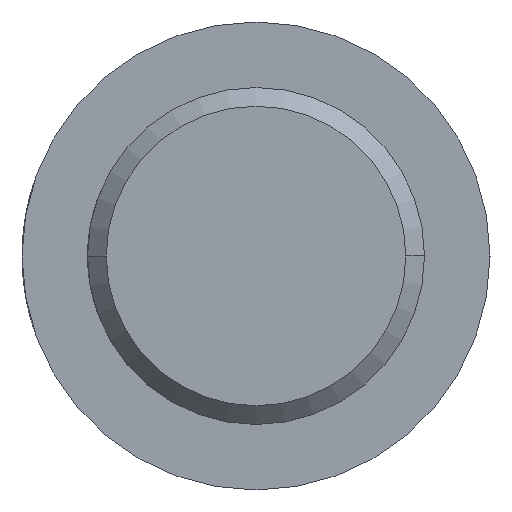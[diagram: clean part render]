
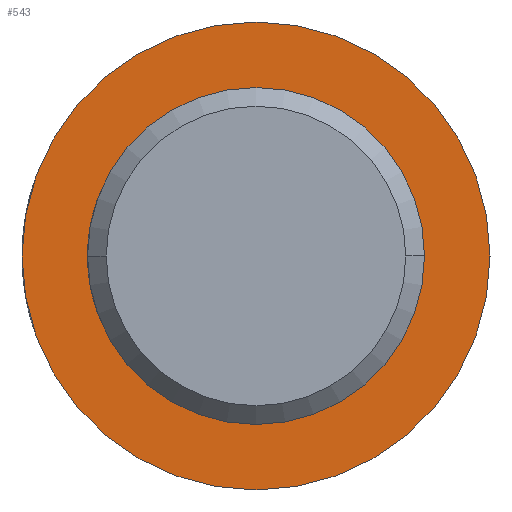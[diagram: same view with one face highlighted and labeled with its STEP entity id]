
A CAD part, left-side view. The second image highlights one B-rep face of the part: STEP entity #543.
In plain terms, the highlighted planar face has unit normal (-1, 0, 0).
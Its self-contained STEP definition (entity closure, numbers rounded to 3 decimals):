
#55 = CARTESIAN_POINT ( 'NONE',  ( -25.25, 9., 0. ) ) ;
#59 = CARTESIAN_POINT ( 'NONE',  ( -25.25, 12.5, 0. ) ) ;
#60 = CARTESIAN_POINT ( 'NONE',  ( -25.25, -9., 0. ) ) ;
#61 = CARTESIAN_POINT ( 'NONE',  ( -25.25, -12.5, 0. ) ) ;
#137 = EDGE_CURVE ( 'NONE', #1380, #1388, #1187, .T. ) ;
#138 = EDGE_CURVE ( 'NONE', #1386, #1389, #1182, .T. ) ;
#160 = EDGE_LOOP ( 'NONE', ( #746, #747 ) ) ;
#388 = CARTESIAN_POINT ( 'NONE',  ( -25.25, 12.5, 0. ) ) ;
#389 = PLANE ( 'NONE',  #1125 ) ;
#394 = DIRECTION ( 'NONE',  ( 1., 0., 0. ) ) ;
#395 = DIRECTION ( 'NONE',  ( 0., 1., 0. ) ) ;
#506 = EDGE_LOOP ( 'NONE', ( #744, #745 ) ) ;
#543 = ADVANCED_FACE ( 'NONE', ( #907, #912 ), #389, .F. ) ;
#744 = ORIENTED_EDGE ( 'NONE', *, *, #848, .F. ) ;
#745 = ORIENTED_EDGE ( 'NONE', *, *, #137, .F. ) ;
#746 = ORIENTED_EDGE ( 'NONE', *, *, #849, .T. ) ;
#747 = ORIENTED_EDGE ( 'NONE', *, *, #138, .T. ) ;
#777 = CARTESIAN_POINT ( 'NONE',  ( -25.25, 0., 0. ) ) ;
#778 = DIRECTION ( 'NONE',  ( -1., 0., 0. ) ) ;
#779 = DIRECTION ( 'NONE',  ( 0., -1., 0. ) ) ;
#780 = CARTESIAN_POINT ( 'NONE',  ( -25.25, 0., 0. ) ) ;
#781 = DIRECTION ( 'NONE',  ( -1., 0., 0. ) ) ;
#782 = DIRECTION ( 'NONE',  ( 0., -1., 0. ) ) ;
#848 = EDGE_CURVE ( 'NONE', #1388, #1380, #940, .T. ) ;
#849 = EDGE_CURVE ( 'NONE', #1389, #1386, #942, .T. ) ;
#870 = AXIS2_PLACEMENT_3D ( 'NONE', #1407, #1408, #1409 ) ;
#871 = AXIS2_PLACEMENT_3D ( 'NONE', #1410, #1411, #1325 ) ;
#907 = FACE_BOUND ( 'NONE', #506, .T. ) ;
#912 = FACE_OUTER_BOUND ( 'NONE', #160, .T. ) ;
#940 = CIRCLE ( 'NONE', #1139, 9. ) ;
#942 = CIRCLE ( 'NONE', #1140, 12.5 ) ;
#1125 = AXIS2_PLACEMENT_3D ( 'NONE', #388, #394, #395 ) ;
#1139 = AXIS2_PLACEMENT_3D ( 'NONE', #777, #778, #779 ) ;
#1140 = AXIS2_PLACEMENT_3D ( 'NONE', #780, #781, #782 ) ;
#1182 = CIRCLE ( 'NONE', #871, 12.5 ) ;
#1187 = CIRCLE ( 'NONE', #870, 9. ) ;
#1325 = DIRECTION ( 'NONE',  ( 0., -1., 0. ) ) ;
#1380 = VERTEX_POINT ( 'NONE', #55 ) ;
#1386 = VERTEX_POINT ( 'NONE', #59 ) ;
#1388 = VERTEX_POINT ( 'NONE', #60 ) ;
#1389 = VERTEX_POINT ( 'NONE', #61 ) ;
#1407 = CARTESIAN_POINT ( 'NONE',  ( -25.25, 0., 0. ) ) ;
#1408 = DIRECTION ( 'NONE',  ( -1., 0., 0. ) ) ;
#1409 = DIRECTION ( 'NONE',  ( 0., -1., 0. ) ) ;
#1410 = CARTESIAN_POINT ( 'NONE',  ( -25.25, 0., 0. ) ) ;
#1411 = DIRECTION ( 'NONE',  ( -1., 0., 0. ) ) ;
